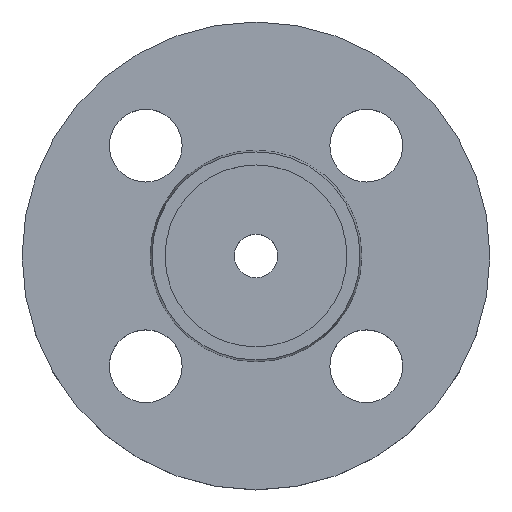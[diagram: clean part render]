
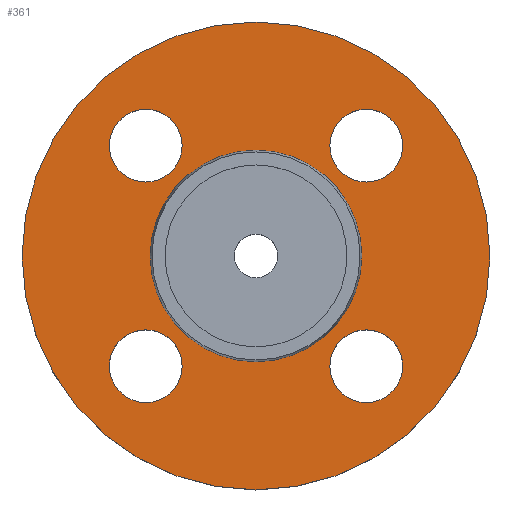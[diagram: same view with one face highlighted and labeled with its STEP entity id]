
A CAD part, top view. The second image highlights one B-rep face of the part: STEP entity #361.
In plain terms, the highlighted planar face has unit normal (0, 0, 1).
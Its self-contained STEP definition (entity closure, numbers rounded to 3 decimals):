
#8 = EDGE_CURVE ( 'NONE', #668, #504, #437, .T. ) ;
#9 = CIRCLE ( 'NONE', #571, 7. ) ;
#13 = CIRCLE ( 'NONE', #331, 7. ) ;
#31 = DIRECTION ( 'NONE',  ( 0., 0., -1. ) ) ;
#35 = DIRECTION ( 'NONE',  ( 1., 0., 0. ) ) ;
#36 = DIRECTION ( 'NONE',  ( 0., 0., -1. ) ) ;
#37 = CARTESIAN_POINT ( 'NONE',  ( 21.213, -21.213, -2. ) ) ;
#42 = DIRECTION ( 'NONE',  ( 1., 0., 0. ) ) ;
#45 = DIRECTION ( 'NONE',  ( 0., 0., -1. ) ) ;
#48 = CARTESIAN_POINT ( 'NONE',  ( -21.213, 21.213, -2. ) ) ;
#77 = CARTESIAN_POINT ( 'NONE',  ( 28.213, 21.213, -2. ) ) ;
#86 = CARTESIAN_POINT ( 'NONE',  ( -14.213, -21.213, -2. ) ) ;
#116 = CARTESIAN_POINT ( 'NONE',  ( 14.213, -21.213, -2. ) ) ;
#118 = CARTESIAN_POINT ( 'NONE',  ( 45., 0., -2. ) ) ;
#131 = CARTESIAN_POINT ( 'NONE',  ( -28.213, 21.213, -2. ) ) ;
#142 = CARTESIAN_POINT ( 'NONE',  ( -20.353, 0., -2. ) ) ;
#145 = CARTESIAN_POINT ( 'NONE',  ( -28.213, -21.213, -2. ) ) ;
#163 = EDGE_CURVE ( 'NONE', #557, #465, #541, .T. ) ;
#164 = DIRECTION ( 'NONE',  ( 1., 0., 0. ) ) ;
#166 = CARTESIAN_POINT ( 'NONE',  ( 21.213, -21.213, -2. ) ) ;
#174 = DIRECTION ( 'NONE',  ( -1., 0., 0. ) ) ;
#178 = CARTESIAN_POINT ( 'NONE',  ( 0., 0., -2. ) ) ;
#182 = EDGE_CURVE ( 'NONE', #680, #459, #9, .T. ) ;
#183 = CARTESIAN_POINT ( 'NONE',  ( -14.213, 21.213, -2. ) ) ;
#185 = CARTESIAN_POINT ( 'NONE',  ( 20.353, 0., -2. ) ) ;
#194 = AXIS2_PLACEMENT_3D ( 'NONE', #733, #734, #736 ) ;
#195 = CIRCLE ( 'NONE', #430, 20.353 ) ;
#196 = DIRECTION ( 'NONE',  ( 0., 0., -1. ) ) ;
#201 = CIRCLE ( 'NONE', #220, 7. ) ;
#212 = AXIS2_PLACEMENT_3D ( 'NONE', #688, #689, #690 ) ;
#220 = AXIS2_PLACEMENT_3D ( 'NONE', #166, #196, #164 ) ;
#225 = DIRECTION ( 'NONE',  ( 0., 0., -1. ) ) ;
#248 = AXIS2_PLACEMENT_3D ( 'NONE', #388, #395, #404 ) ;
#275 = FACE_BOUND ( 'NONE', #525, .T. ) ;
#276 = FACE_BOUND ( 'NONE', #664, .T. ) ;
#277 = FACE_BOUND ( 'NONE', #653, .T. ) ;
#278 = FACE_BOUND ( 'NONE', #477, .T. ) ;
#279 = FACE_BOUND ( 'NONE', #510, .T. ) ;
#280 = FACE_OUTER_BOUND ( 'NONE', #528, .T. ) ;
#282 = PLANE ( 'NONE',  #411 ) ;
#283 = CARTESIAN_POINT ( 'NONE',  ( 20.353, 0., -2. ) ) ;
#284 = DIRECTION ( 'NONE',  ( 0., 0., 1. ) ) ;
#285 = DIRECTION ( 'NONE',  ( 1., 0., 0. ) ) ;
#289 = CARTESIAN_POINT ( 'NONE',  ( 0., 0., -2. ) ) ;
#290 = DIRECTION ( 'NONE',  ( 0., 0., -1. ) ) ;
#292 = DIRECTION ( 'NONE',  ( -1., 0., 0. ) ) ;
#312 = EDGE_CURVE ( 'NONE', #459, #680, #497, .T. ) ;
#314 = CARTESIAN_POINT ( 'NONE',  ( -45., 0., -2. ) ) ;
#319 = CIRCLE ( 'NONE', #610, 7. ) ;
#324 = CARTESIAN_POINT ( 'NONE',  ( 21.213, 21.213, -2. ) ) ;
#331 = AXIS2_PLACEMENT_3D ( 'NONE', #37, #36, #35 ) ;
#334 = CARTESIAN_POINT ( 'NONE',  ( -21.213, 21.213, -2. ) ) ;
#337 = DIRECTION ( 'NONE',  ( 0., 0., -1. ) ) ;
#340 = AXIS2_PLACEMENT_3D ( 'NONE', #334, #337, #346 ) ;
#343 = CARTESIAN_POINT ( 'NONE',  ( 28.213, -21.213, -2. ) ) ;
#346 = DIRECTION ( 'NONE',  ( 1., 0., 0. ) ) ;
#349 = CIRCLE ( 'NONE', #724, 45. ) ;
#361 = ADVANCED_FACE ( 'NONE', ( #275, #276, #277, #278, #279, #280 ), #282, .T. ) ;
#363 = AXIS2_PLACEMENT_3D ( 'NONE', #48, #45, #42 ) ;
#367 = CIRCLE ( 'NONE', #363, 7. ) ;
#371 = EDGE_CURVE ( 'NONE', #465, #557, #349, .T. ) ;
#382 = DIRECTION ( 'NONE',  ( 1., 0., 0. ) ) ;
#388 = CARTESIAN_POINT ( 'NONE',  ( 0., 0., -2. ) ) ;
#395 = DIRECTION ( 'NONE',  ( 0., 0., -1. ) ) ;
#397 = EDGE_CURVE ( 'NONE', #536, #454, #420, .T. ) ;
#399 = CARTESIAN_POINT ( 'NONE',  ( -21.213, -21.213, -2. ) ) ;
#400 = DIRECTION ( 'NONE',  ( 0., 0., -1. ) ) ;
#404 = DIRECTION ( 'NONE',  ( -1., 0., 0. ) ) ;
#407 = CARTESIAN_POINT ( 'NONE',  ( 14.213, 21.213, -2. ) ) ;
#411 = AXIS2_PLACEMENT_3D ( 'NONE', #283, #284, #285 ) ;
#418 = AXIS2_PLACEMENT_3D ( 'NONE', #324, #31, #700 ) ;
#420 = CIRCLE ( 'NONE', #340, 7. ) ;
#430 = AXIS2_PLACEMENT_3D ( 'NONE', #178, #225, #174 ) ;
#435 = EDGE_CURVE ( 'NONE', #521, #448, #195, .T. ) ;
#436 = EDGE_CURVE ( 'NONE', #504, #668, #319, .T. ) ;
#437 = CIRCLE ( 'NONE', #212, 7. ) ;
#440 = CIRCLE ( 'NONE', #248, 20.353 ) ;
#447 = EDGE_CURVE ( 'NONE', #569, #474, #201, .T. ) ;
#448 = VERTEX_POINT ( 'NONE', #185 ) ;
#454 = VERTEX_POINT ( 'NONE', #183 ) ;
#455 = EDGE_CURVE ( 'NONE', #448, #521, #440, .T. ) ;
#459 = VERTEX_POINT ( 'NONE', #407 ) ;
#465 = VERTEX_POINT ( 'NONE', #314 ) ;
#474 = VERTEX_POINT ( 'NONE', #343 ) ;
#477 = EDGE_LOOP ( 'NONE', ( #570, #572 ) ) ;
#497 = CIRCLE ( 'NONE', #418, 7. ) ;
#504 = VERTEX_POINT ( 'NONE', #145 ) ;
#510 = EDGE_LOOP ( 'NONE', ( #573, #574 ) ) ;
#521 = VERTEX_POINT ( 'NONE', #142 ) ;
#525 = EDGE_LOOP ( 'NONE', ( #562, #563 ) ) ;
#528 = EDGE_LOOP ( 'NONE', ( #575, #576 ) ) ;
#536 = VERTEX_POINT ( 'NONE', #131 ) ;
#541 = CIRCLE ( 'NONE', #194, 45. ) ;
#557 = VERTEX_POINT ( 'NONE', #118 ) ;
#562 = ORIENTED_EDGE ( 'NONE', *, *, #751, .T. ) ;
#563 = ORIENTED_EDGE ( 'NONE', *, *, #447, .T. ) ;
#564 = ORIENTED_EDGE ( 'NONE', *, *, #8, .T. ) ;
#566 = ORIENTED_EDGE ( 'NONE', *, *, #436, .T. ) ;
#567 = ORIENTED_EDGE ( 'NONE', *, *, #728, .T. ) ;
#568 = ORIENTED_EDGE ( 'NONE', *, *, #397, .T. ) ;
#569 = VERTEX_POINT ( 'NONE', #116 ) ;
#570 = ORIENTED_EDGE ( 'NONE', *, *, #182, .T. ) ;
#571 = AXIS2_PLACEMENT_3D ( 'NONE', #740, #741, #742 ) ;
#572 = ORIENTED_EDGE ( 'NONE', *, *, #312, .T. ) ;
#573 = ORIENTED_EDGE ( 'NONE', *, *, #435, .T. ) ;
#574 = ORIENTED_EDGE ( 'NONE', *, *, #455, .T. ) ;
#575 = ORIENTED_EDGE ( 'NONE', *, *, #163, .F. ) ;
#576 = ORIENTED_EDGE ( 'NONE', *, *, #371, .F. ) ;
#610 = AXIS2_PLACEMENT_3D ( 'NONE', #399, #400, #382 ) ;
#653 = EDGE_LOOP ( 'NONE', ( #567, #568 ) ) ;
#664 = EDGE_LOOP ( 'NONE', ( #564, #566 ) ) ;
#668 = VERTEX_POINT ( 'NONE', #86 ) ;
#680 = VERTEX_POINT ( 'NONE', #77 ) ;
#688 = CARTESIAN_POINT ( 'NONE',  ( -21.213, -21.213, -2. ) ) ;
#689 = DIRECTION ( 'NONE',  ( 0., 0., -1. ) ) ;
#690 = DIRECTION ( 'NONE',  ( 1., 0., 0. ) ) ;
#700 = DIRECTION ( 'NONE',  ( 1., 0., 0. ) ) ;
#724 = AXIS2_PLACEMENT_3D ( 'NONE', #289, #290, #292 ) ;
#728 = EDGE_CURVE ( 'NONE', #454, #536, #367, .T. ) ;
#733 = CARTESIAN_POINT ( 'NONE',  ( 0., 0., -2. ) ) ;
#734 = DIRECTION ( 'NONE',  ( 0., 0., -1. ) ) ;
#736 = DIRECTION ( 'NONE',  ( -1., 0., 0. ) ) ;
#740 = CARTESIAN_POINT ( 'NONE',  ( 21.213, 21.213, -2. ) ) ;
#741 = DIRECTION ( 'NONE',  ( 0., 0., -1. ) ) ;
#742 = DIRECTION ( 'NONE',  ( 1., 0., 0. ) ) ;
#751 = EDGE_CURVE ( 'NONE', #474, #569, #13, .T. ) ;
